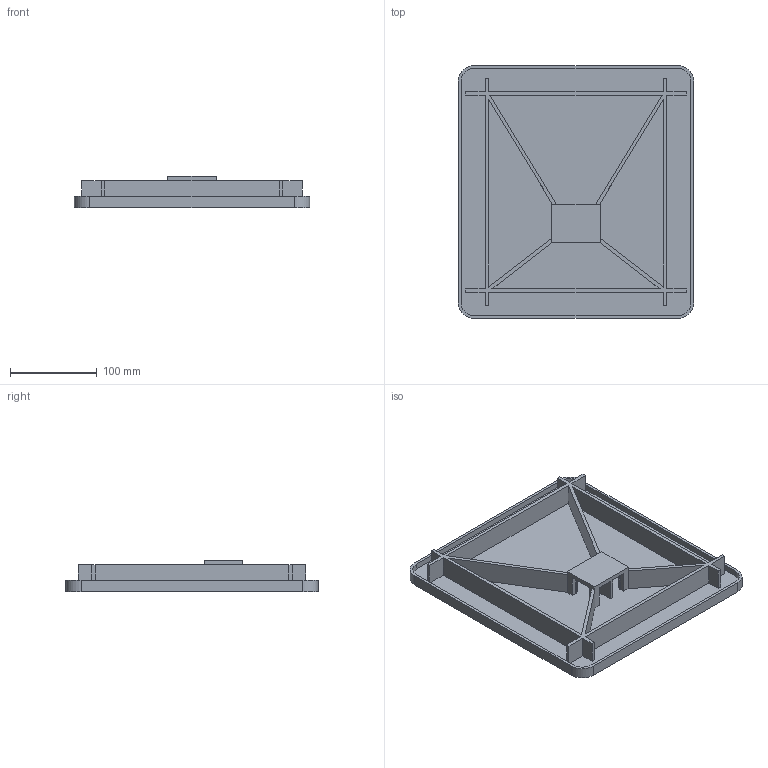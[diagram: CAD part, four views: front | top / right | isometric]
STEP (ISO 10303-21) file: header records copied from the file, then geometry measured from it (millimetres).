
FILE_DESCRIPTION(('Open CASCADE Model'),'2;1');
FILE_NAME('Open CASCADE Shape Model','2026-09-07T11:12:44',('Author'),( 'Open CASCADE'),'Open CASCADE STEP processor 7.9','Open CASCADE 7.9' ,'Unknown');
FILE_SCHEMA(('AUTOMOTIVE_DESIGN { 1 0 10303 214 1 1 1 1 }'));
Length unit declared in the file: millimetre
Products named in the file (1): Open CASCADE STEP translator 7.9 1
Bounding box: 272 x 292 x 36 mm (x, y, z)
Volume: 672063 mm3; surface area: 264319.1 mm2
Topology: 1 solids, 1 shells, 90 faces, 276 edges, 184 vertices
Faces by surface type: plane 82, cylinder 8
Entity records: 6572 total; most frequent: CARTESIAN_POINT 1217, DIRECTION 932, LINE 706, VECTOR 706, ORIENTED_EDGE 552, PCURVE 552, DEFINITIONAL_REPRESENTATION 552, EDGE_CURVE 276
